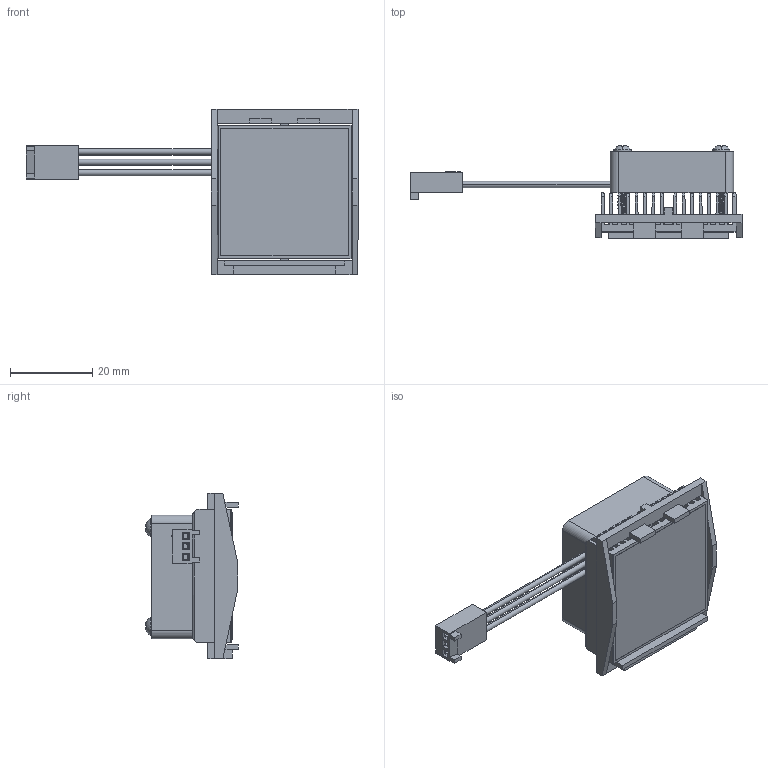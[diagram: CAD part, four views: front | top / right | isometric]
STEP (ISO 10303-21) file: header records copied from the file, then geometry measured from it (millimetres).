
FILE_DESCRIPTION (( 'STEP AP214' ), '1' );
FILE_NAME ('FI33-1.7+BU.STEP', '2023-03-07T22:13:59', ( '' ), ( '' ), 'SwSTEP 2.0', 'SolidWorks 2020', '' );
FILE_SCHEMA (( 'AUTOMOTIVE_DESIGN' ));
Length unit declared in the file: millimetre
Products named in the file (1): FI33-1.7+BU
Bounding box: 80.69 x 22.6 x 40.1 mm (x, y, z)
Volume: 10969 mm3; surface area: 20934.1 mm2
Topology: 8 solids, 8 shells, 884 faces, 2565 edges, 1704 vertices
Faces by surface type: cylinder 381, plane 329, bspline 118, cone 40, sphere 8, torus 8
Entity records: 64404 total; most frequent: CARTESIAN_POINT 34064, ORIENTED_EDGE 5130, DIRECTION 3463, EDGE_CURVE 2565, VERTEX_POINT 1704, LINE 1293, VECTOR 1293, AXIS2_PLACEMENT_3D 1085
